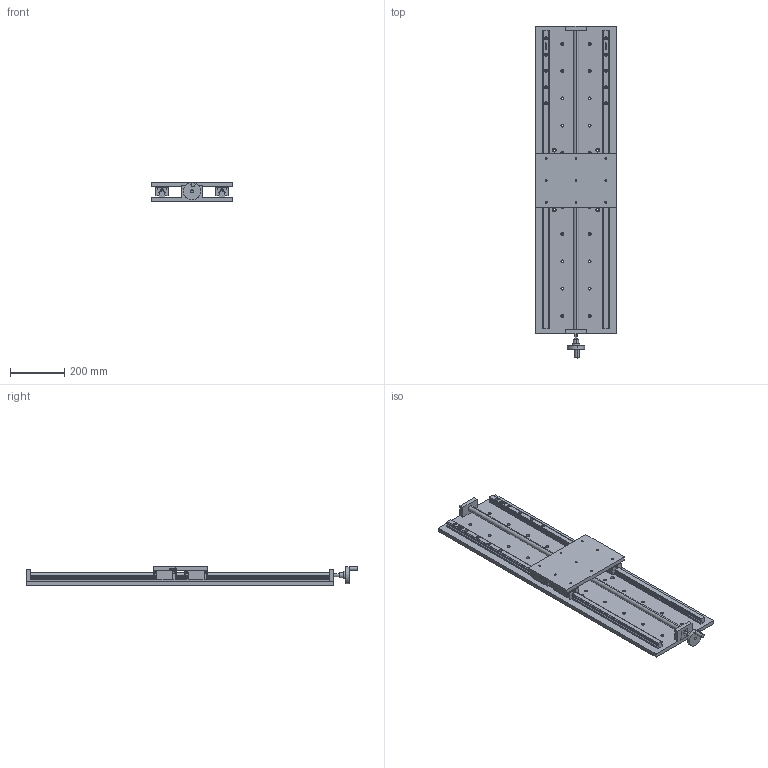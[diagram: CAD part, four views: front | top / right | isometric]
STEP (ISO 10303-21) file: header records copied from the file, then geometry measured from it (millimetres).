
FILE_DESCRIPTION (( 'STEP AP214' ), '1' );
FILE_NAME ('PT300-900.STEP', '2022-09-18T06:20:25', ( '' ), ( '' ), 'SwSTEP 2.0', 'SolidWorks 2017', '' );
FILE_SCHEMA (( 'AUTOMOTIVE_DESIGN' ));
Length unit declared in the file: millimetre
Products named in the file (12): HGH25CA2R300Z0C_GW202204023669; HGH25C__X2_53F35C01_X0__temp; M6H; 34320001; PT300-900; HGR25_temp-900; 標踡輸; 菁啣-900; HGH25C__X2_5DE65C01_X0__temp; 標踡; 醱啣; 忒謫
Assembly tree (12 placements, depth 3):
  PT300-900
    菁啣-900
    醱啣
    HGH25CA2R300Z0C_GW202204023669  x2
      HGR25_temp-900
      HGH25C__X2_53F35C01_X0__temp
      M6H
      HGH25C__X2_5DE65C01_X0__temp
      34320001
    標踡
      標踡輸
      忒謫
Bounding box: 300 x 1222.1 x 70.06 mm (x, y, z)
Volume: 7828262.5 mm3; surface area: 1302292.9 mm2
Topology: 31 solids, 33 shells, 3079 faces, 8614 edges, 5686 vertices
Faces by surface type: plane 1999, cylinder 814, bspline 202, cone 56, torus 8
Entity records: 75121 total; most frequent: CARTESIAN_POINT 15056, ORIENTED_EDGE 9568, DIRECTION 8700, EDGE_CURVE 4784, LINE 3438, VECTOR 3438, VERTEX_POINT 3175, AXIS2_PLACEMENT_3D 2631
